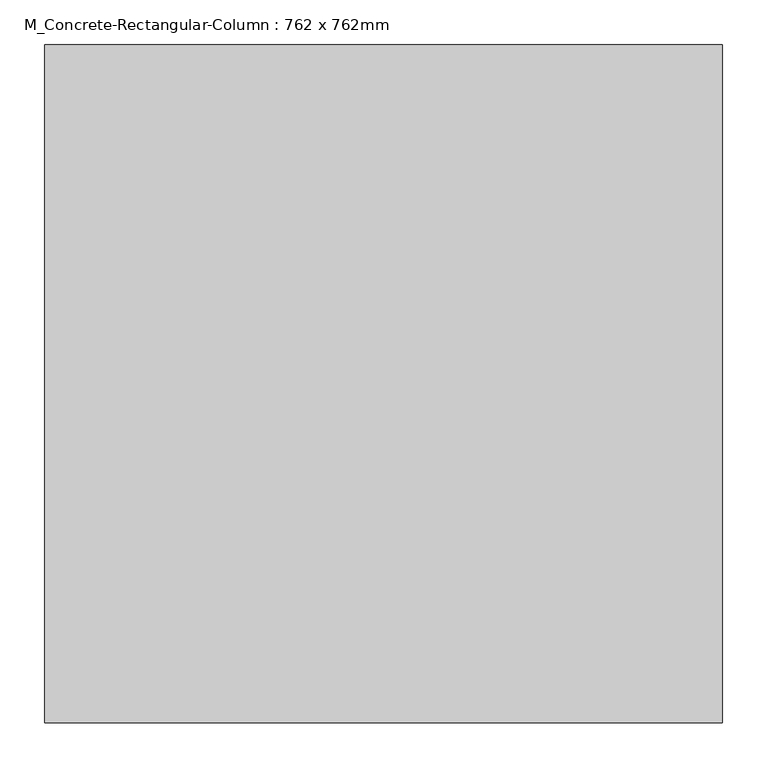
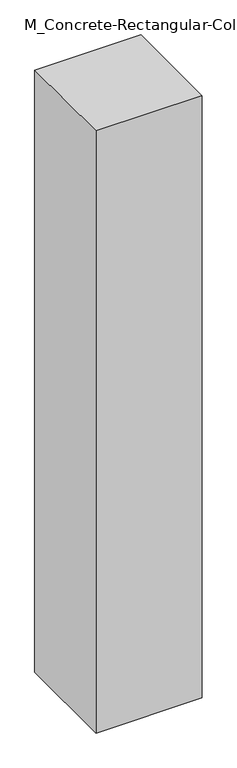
"""IFC4 building model written with IfcOpenShell, lengths in millimetres: column geometry, M_Concrete-Rectangular-Column : 762 x 762mm."""

from ifc_helpers import new_model, si_unit, frame, origin, place, context, project, spatial, polyline, outline, extrude, source, transform, mapped, element, save


def m_concrete_rectangular_column_762_x_762mm_e00174ba(model_context):
    return source(origin(), model_context, "Body", "SweptSolid", [
        extrude(outline(polyline([(381.0, 381.0), (381.0, -381.0), (-381.0, -381.0), (-381.0, 381.0), (381.0, 381.0)])), frame((0.0, 0.0, -4572.0), z_axis=(0.0, 0.0, 1.0), x_axis=(1.0, 0.0, 0.0)), (0.0, 0.0, 1.0), 4572.0),
    ])


if __name__ == "__main__":
    model = new_model("IFC4")
    model_context = context("Model", 3, world=origin())
    ifc_project = project(units=[si_unit("LENGTHUNIT", "METRE", prefix="MILLI")], contexts=[model_context])
    site = spatial("IfcSite", under=ifc_project)
    building = spatial("IfcBuilding", under=site)
    placement = place(None, origin())
    m_concrete_rectangular_column_762_x_762mm_shape = m_concrete_rectangular_column_762_x_762mm_e00174ba(model_context)
    element("IfcColumn", 1, ObjectType="M_Concrete-Rectangular-Column : 762 x 762mm", at=placement, inside=building, context=model_context, shape_type="MappedRepresentation", body=[
        mapped(m_concrete_rectangular_column_762_x_762mm_shape, transform((0.0, 0.0, 0.0), x_axis=(1.0, 0.0, 0.0), y_axis=(0.0, 1.0, 0.0), z_axis=(0.0, 0.0, 1.0))),
    ])
    save(model, "model.ifc")
